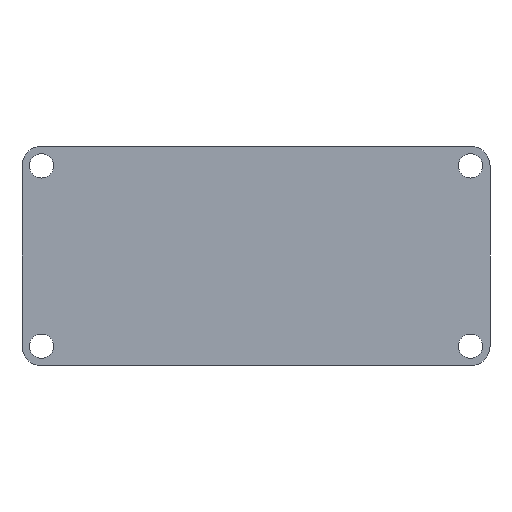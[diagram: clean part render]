
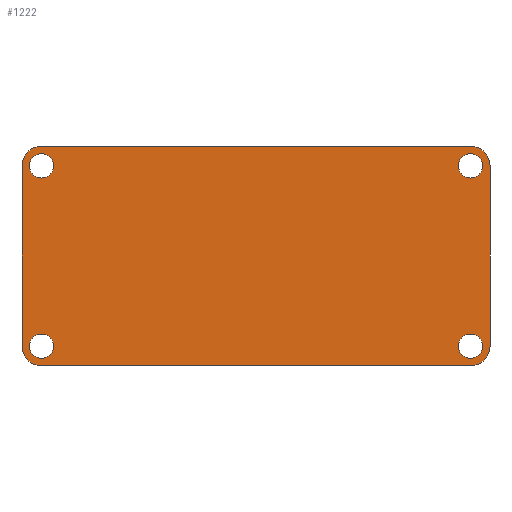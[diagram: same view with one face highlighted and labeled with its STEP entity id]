
A CAD part, front view. The second image highlights one B-rep face of the part: STEP entity #1222.
In plain terms, the highlighted planar face has unit normal (0, -1, 0).
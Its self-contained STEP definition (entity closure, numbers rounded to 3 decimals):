
#3 = EDGE_CURVE ( 'NONE', #1394, #1458, #1244, .T. ) ;
#6 = VERTEX_POINT ( 'NONE', #1091 ) ;
#23 = LINE ( 'NONE', #1059, #288 ) ;
#49 = EDGE_CURVE ( 'NONE', #973, #764, #643, .T. ) ;
#68 = DIRECTION ( 'NONE',  ( 0., 0., 1. ) ) ;
#80 = PLANE ( 'NONE',  #247 ) ;
#81 = CARTESIAN_POINT ( 'NONE',  ( -48., -5., 0. ) ) ;
#100 = CIRCLE ( 'NONE', #691, 4. ) ;
#119 = VERTEX_POINT ( 'NONE', #265 ) ;
#121 = CIRCLE ( 'NONE', #1240, 4. ) ;
#124 = DIRECTION ( 'NONE',  ( 1., 0., 0. ) ) ;
#130 = DIRECTION ( 'NONE',  ( 0., 1., 0. ) ) ;
#132 = CARTESIAN_POINT ( 'NONE',  ( 44., -5., -21. ) ) ;
#146 = VERTEX_POINT ( 'NONE', #1348 ) ;
#163 = DIRECTION ( 'NONE',  ( 0., 0., 1. ) ) ;
#164 = AXIS2_PLACEMENT_3D ( 'NONE', #648, #640, #1005 ) ;
#170 = FACE_OUTER_BOUND ( 'NONE', #363, .T. ) ;
#177 = ORIENTED_EDGE ( 'NONE', *, *, #192, .T. ) ;
#192 = EDGE_CURVE ( 'NONE', #764, #119, #220, .T. ) ;
#206 = CARTESIAN_POINT ( 'NONE',  ( -48., -5., 18.5 ) ) ;
#219 = ORIENTED_EDGE ( 'NONE', *, *, #604, .T. ) ;
#220 = LINE ( 'NONE', #81, #1405 ) ;
#233 = ORIENTED_EDGE ( 'NONE', *, *, #1441, .T. ) ;
#243 = CARTESIAN_POINT ( 'NONE',  ( 44., -5., -18.5 ) ) ;
#244 = CARTESIAN_POINT ( 'NONE',  ( 48., -5., 0. ) ) ;
#247 = AXIS2_PLACEMENT_3D ( 'NONE', #1129, #776, #1375 ) ;
#263 = AXIS2_PLACEMENT_3D ( 'NONE', #835, #974, #1310 ) ;
#265 = CARTESIAN_POINT ( 'NONE',  ( -48., -5., -18.5 ) ) ;
#284 = VERTEX_POINT ( 'NONE', #804 ) ;
#288 = VECTOR ( 'NONE', #124, 1000. ) ;
#291 = CARTESIAN_POINT ( 'NONE',  ( -44., -5., 18.5 ) ) ;
#295 = CARTESIAN_POINT ( 'NONE',  ( 44., -5., 21. ) ) ;
#304 = EDGE_CURVE ( 'NONE', #941, #284, #1195, .T. ) ;
#344 = AXIS2_PLACEMENT_3D ( 'NONE', #830, #394, #163 ) ;
#347 = ORIENTED_EDGE ( 'NONE', *, *, #897, .T. ) ;
#362 = CARTESIAN_POINT ( 'NONE',  ( -44., -5., -18.5 ) ) ;
#363 = EDGE_LOOP ( 'NONE', ( #177, #580, #347, #1032, #1454, #453, #1516, #1111 ) ) ;
#365 = VECTOR ( 'NONE', #369, 1000. ) ;
#369 = DIRECTION ( 'NONE',  ( 0., 0., -1. ) ) ;
#375 = CARTESIAN_POINT ( 'NONE',  ( 44., -5., -16. ) ) ;
#392 = DIRECTION ( 'NONE',  ( 0., 1., 0. ) ) ;
#394 = DIRECTION ( 'NONE',  ( 0., -1., 0. ) ) ;
#398 = AXIS2_PLACEMENT_3D ( 'NONE', #1145, #423, #1378 ) ;
#408 = CIRCLE ( 'NONE', #1417, 2.5 ) ;
#423 = DIRECTION ( 'NONE',  ( 0., 1., 0. ) ) ;
#438 = EDGE_CURVE ( 'NONE', #564, #6, #689, .T. ) ;
#441 = EDGE_LOOP ( 'NONE', ( #219, #233 ) ) ;
#453 = ORIENTED_EDGE ( 'NONE', *, *, #3, .F. ) ;
#469 = EDGE_CURVE ( 'NONE', #973, #1394, #497, .T. ) ;
#482 = ORIENTED_EDGE ( 'NONE', *, *, #1518, .T. ) ;
#483 = DIRECTION ( 'NONE',  ( 0., 0., 1. ) ) ;
#491 = DIRECTION ( 'NONE',  ( 0., 0., 1. ) ) ;
#494 = AXIS2_PLACEMENT_3D ( 'NONE', #700, #1174, #1065 ) ;
#497 = LINE ( 'NONE', #1349, #1036 ) ;
#500 = ORIENTED_EDGE ( 'NONE', *, *, #1495, .T. ) ;
#514 = DIRECTION ( 'NONE',  ( 0., 0., 1. ) ) ;
#521 = ORIENTED_EDGE ( 'NONE', *, *, #1316, .T. ) ;
#533 = DIRECTION ( 'NONE',  ( 0., -1., 0. ) ) ;
#564 = VERTEX_POINT ( 'NONE', #1212 ) ;
#580 = ORIENTED_EDGE ( 'NONE', *, *, #844, .T. ) ;
#588 = VERTEX_POINT ( 'NONE', #1483 ) ;
#603 = DIRECTION ( 'NONE',  ( 0., 0., 1. ) ) ;
#604 = EDGE_CURVE ( 'NONE', #1521, #841, #801, .T. ) ;
#611 = DIRECTION ( 'NONE',  ( 0., -1., 0. ) ) ;
#640 = DIRECTION ( 'NONE',  ( 0., 1., 0. ) ) ;
#643 = CIRCLE ( 'NONE', #344, 4. ) ;
#644 = CARTESIAN_POINT ( 'NONE',  ( -44., -5., -22.5 ) ) ;
#648 = CARTESIAN_POINT ( 'NONE',  ( -44., -5., -18.5 ) ) ;
#654 = FACE_BOUND ( 'NONE', #1156, .T. ) ;
#689 = CIRCLE ( 'NONE', #164, 2.5 ) ;
#691 = AXIS2_PLACEMENT_3D ( 'NONE', #362, #611, #828 ) ;
#700 = CARTESIAN_POINT ( 'NONE',  ( -44., -5., 18.5 ) ) ;
#705 = EDGE_CURVE ( 'NONE', #146, #1315, #121, .T. ) ;
#706 = CARTESIAN_POINT ( 'NONE',  ( 48., -5., -18.5 ) ) ;
#755 = VERTEX_POINT ( 'NONE', #295 ) ;
#764 = VERTEX_POINT ( 'NONE', #206 ) ;
#769 = CARTESIAN_POINT ( 'NONE',  ( -44., -5., 22.5 ) ) ;
#776 = DIRECTION ( 'NONE',  ( 0., 1., 0. ) ) ;
#781 = FACE_BOUND ( 'NONE', #858, .T. ) ;
#797 = ORIENTED_EDGE ( 'NONE', *, *, #304, .T. ) ;
#798 = AXIS2_PLACEMENT_3D ( 'NONE', #1434, #130, #603 ) ;
#801 = CIRCLE ( 'NONE', #398, 2.5 ) ;
#804 = CARTESIAN_POINT ( 'NONE',  ( -44., -5., 21. ) ) ;
#812 = CARTESIAN_POINT ( 'NONE',  ( 44., -5., -18.5 ) ) ;
#828 = DIRECTION ( 'NONE',  ( 0., 0., 1. ) ) ;
#830 = CARTESIAN_POINT ( 'NONE',  ( -44., -5., 18.5 ) ) ;
#835 = CARTESIAN_POINT ( 'NONE',  ( 44., -5., 18.5 ) ) ;
#837 = DIRECTION ( 'NONE',  ( 0., 1., 0. ) ) ;
#841 = VERTEX_POINT ( 'NONE', #132 ) ;
#844 = EDGE_CURVE ( 'NONE', #119, #1056, #100, .T. ) ;
#858 = EDGE_LOOP ( 'NONE', ( #521, #797 ) ) ;
#890 = FACE_BOUND ( 'NONE', #441, .T. ) ;
#897 = EDGE_CURVE ( 'NONE', #1056, #146, #23, .T. ) ;
#941 = VERTEX_POINT ( 'NONE', #951 ) ;
#951 = CARTESIAN_POINT ( 'NONE',  ( -44., -5., 16. ) ) ;
#957 = EDGE_CURVE ( 'NONE', #1458, #1315, #1427, .T. ) ;
#973 = VERTEX_POINT ( 'NONE', #769 ) ;
#974 = DIRECTION ( 'NONE',  ( 0., 1., 0. ) ) ;
#983 = DIRECTION ( 'NONE',  ( 0., 1., 0. ) ) ;
#1005 = DIRECTION ( 'NONE',  ( 0., 0., 1. ) ) ;
#1024 = CIRCLE ( 'NONE', #1433, 2.5 ) ;
#1032 = ORIENTED_EDGE ( 'NONE', *, *, #705, .T. ) ;
#1036 = VECTOR ( 'NONE', #1229, 1000. ) ;
#1050 = CIRCLE ( 'NONE', #1459, 2.5 ) ;
#1056 = VERTEX_POINT ( 'NONE', #644 ) ;
#1059 = CARTESIAN_POINT ( 'NONE',  ( 0., -5., -22.5 ) ) ;
#1062 = EDGE_LOOP ( 'NONE', ( #1467, #1506 ) ) ;
#1063 = EDGE_CURVE ( 'NONE', #6, #564, #408, .T. ) ;
#1065 = DIRECTION ( 'NONE',  ( 0., 0., 1. ) ) ;
#1077 = DIRECTION ( 'NONE',  ( 0., 1., 0. ) ) ;
#1091 = CARTESIAN_POINT ( 'NONE',  ( -44., -5., -21. ) ) ;
#1095 = CARTESIAN_POINT ( 'NONE',  ( -44., -5., -18.5 ) ) ;
#1111 = ORIENTED_EDGE ( 'NONE', *, *, #49, .T. ) ;
#1129 = CARTESIAN_POINT ( 'NONE',  ( 0., -5., 0. ) ) ;
#1143 = FACE_BOUND ( 'NONE', #1062, .T. ) ;
#1145 = CARTESIAN_POINT ( 'NONE',  ( 44., -5., -18.5 ) ) ;
#1156 = EDGE_LOOP ( 'NONE', ( #500, #482 ) ) ;
#1173 = CIRCLE ( 'NONE', #798, 2.5 ) ;
#1174 = DIRECTION ( 'NONE',  ( 0., 1., 0. ) ) ;
#1186 = CARTESIAN_POINT ( 'NONE',  ( 44., -5., 22.5 ) ) ;
#1194 = CARTESIAN_POINT ( 'NONE',  ( 44., -5., 18.5 ) ) ;
#1195 = CIRCLE ( 'NONE', #1462, 2.5 ) ;
#1212 = CARTESIAN_POINT ( 'NONE',  ( -44., -5., -16. ) ) ;
#1222 = ADVANCED_FACE ( 'NONE', ( #170, #1143, #781, #890, #654 ), #80, .F. ) ;
#1229 = DIRECTION ( 'NONE',  ( 1., 0., 0. ) ) ;
#1240 = AXIS2_PLACEMENT_3D ( 'NONE', #812, #533, #1384 ) ;
#1244 = CIRCLE ( 'NONE', #263, 4. ) ;
#1310 = DIRECTION ( 'NONE',  ( 0., 0., 1. ) ) ;
#1315 = VERTEX_POINT ( 'NONE', #706 ) ;
#1316 = EDGE_CURVE ( 'NONE', #284, #941, #1411, .T. ) ;
#1317 = CARTESIAN_POINT ( 'NONE',  ( 48., -5., 18.5 ) ) ;
#1348 = CARTESIAN_POINT ( 'NONE',  ( 44., -5., -22.5 ) ) ;
#1349 = CARTESIAN_POINT ( 'NONE',  ( 0., -5., 22.5 ) ) ;
#1375 = DIRECTION ( 'NONE',  ( 0., 0., 1. ) ) ;
#1378 = DIRECTION ( 'NONE',  ( 0., 0., 1. ) ) ;
#1384 = DIRECTION ( 'NONE',  ( 0., 0., 1. ) ) ;
#1392 = DIRECTION ( 'NONE',  ( 0., 0., -1. ) ) ;
#1394 = VERTEX_POINT ( 'NONE', #1186 ) ;
#1405 = VECTOR ( 'NONE', #1392, 1000. ) ;
#1411 = CIRCLE ( 'NONE', #494, 2.5 ) ;
#1417 = AXIS2_PLACEMENT_3D ( 'NONE', #1095, #983, #514 ) ;
#1427 = LINE ( 'NONE', #244, #365 ) ;
#1433 = AXIS2_PLACEMENT_3D ( 'NONE', #1194, #837, #483 ) ;
#1434 = CARTESIAN_POINT ( 'NONE',  ( 44., -5., 18.5 ) ) ;
#1441 = EDGE_CURVE ( 'NONE', #841, #1521, #1050, .T. ) ;
#1454 = ORIENTED_EDGE ( 'NONE', *, *, #957, .F. ) ;
#1458 = VERTEX_POINT ( 'NONE', #1317 ) ;
#1459 = AXIS2_PLACEMENT_3D ( 'NONE', #243, #1077, #491 ) ;
#1462 = AXIS2_PLACEMENT_3D ( 'NONE', #291, #392, #68 ) ;
#1467 = ORIENTED_EDGE ( 'NONE', *, *, #438, .T. ) ;
#1483 = CARTESIAN_POINT ( 'NONE',  ( 44., -5., 16. ) ) ;
#1495 = EDGE_CURVE ( 'NONE', #755, #588, #1024, .T. ) ;
#1506 = ORIENTED_EDGE ( 'NONE', *, *, #1063, .T. ) ;
#1516 = ORIENTED_EDGE ( 'NONE', *, *, #469, .F. ) ;
#1518 = EDGE_CURVE ( 'NONE', #588, #755, #1173, .T. ) ;
#1521 = VERTEX_POINT ( 'NONE', #375 ) ;
